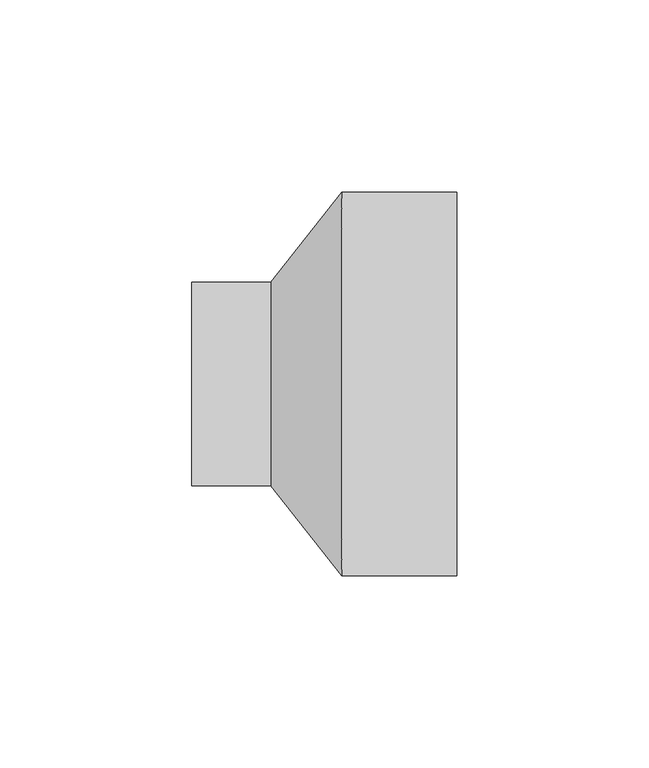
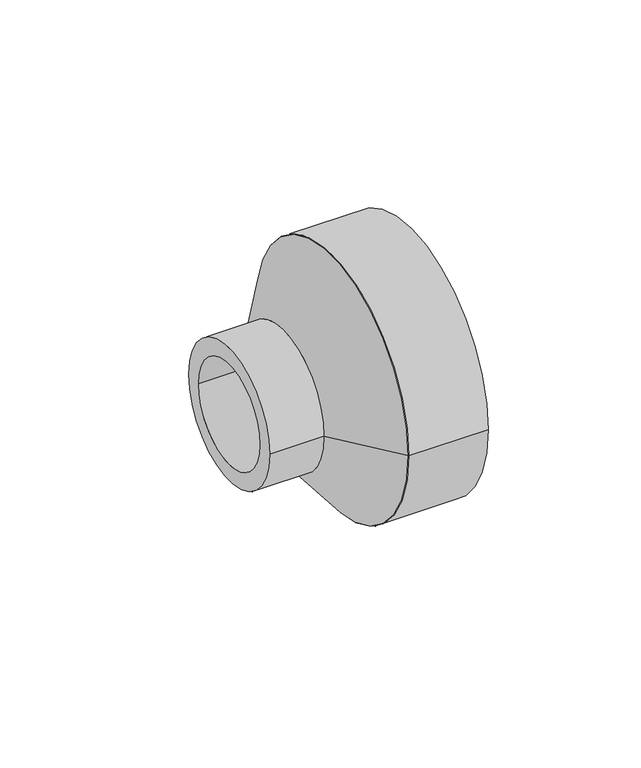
"""IFC4 building model written with IfcOpenShell, lengths in millimetres: pipe fitting geometry, 23_Муфта переходная ВВ : Белый цвет."""

from ifc_helpers import new_model, si_unit, point, frame, origin, origin_2d, place, context, project, spatial, polyline, circle_curve, trimmed, segment, composite_curve, outline, extrude, source, transform, mapped, element, save
from ifc_brep_helpers import plane_surface, revolved_surface, advanced_brep


def pipe_fitting_dfd67f19(model_context):
    return source(origin(), model_context, "Body", "SolidModel", [
        extrude(outline(composite_curve([segment(trimmed(circle_curve(origin_2d(), 50.0), [point((-50.0, 0.0))], [point((50.0, 0.0))], False, "CARTESIAN"), True, "CONTINUOUS"), segment(trimmed(circle_curve(origin_2d(), 50.0), [point((50.0, 0.0))], [point((-50.0, 0.0))], False, "CARTESIAN"), True, "CONTINUOUS")], self_intersect=False), holes=[composite_curve([segment(trimmed(circle_curve(origin_2d(), 37.5), [point((-37.5, 0.0))], [point((37.5, 0.0))], True, "CARTESIAN"), True, "CONTINUOUS"), segment(trimmed(circle_curve(origin_2d(), 37.5), [point((37.5, 0.0))], [point((-37.5, 0.0))], True, "CARTESIAN"), True, "CONTINUOUS")], self_intersect=False)]), frame((4.5, 0.0, 0.0), z_axis=(1.0, 0.0, 0.0), x_axis=(0.0, 1.0, 0.0)), (0.0, 0.0, 1.0), 30.0),
        extrude(outline(composite_curve([segment(trimmed(circle_curve(origin_2d(), 26.5), [point((-26.5, 0.0))], [point((26.5, 0.0))], False, "CARTESIAN"), True, "CONTINUOUS"), segment(trimmed(circle_curve(origin_2d(), 26.5), [point((26.5, 0.0))], [point((-26.5, 0.0))], False, "CARTESIAN"), True, "CONTINUOUS")], self_intersect=False), holes=[composite_curve([segment(trimmed(circle_curve(origin_2d(), 20.0), [point((-20.0, 0.0))], [point((20.0, 0.0))], True, "CARTESIAN"), True, "CONTINUOUS"), segment(trimmed(circle_curve(origin_2d(), 20.0), [point((20.0, 0.0))], [point((-20.0, 0.0))], True, "CARTESIAN"), True, "CONTINUOUS")], self_intersect=False)]), frame((-34.5, 0.0, 0.0), z_axis=(1.0, 0.0, 0.0), x_axis=(0.0, 1.0, 0.0)), (0.0, 0.0, 1.0), 20.5),
        advanced_brep(
        [(4.5, -50.0, 0.0), (4.5, 50.0, 0.0), (4.5, 37.5, 0.0), (4.5, -37.5, 0.0), (-14.0, -26.5, 0.0), (-14.0, 26.5, 0.0), (-14.0, -20.0, 0.0), (-14.0, 20.0, 0.0)],
        [
            (0, 1, circle_curve(frame((4.5, 0.0, 0.0), z_axis=(1.0, 0.0, 0.0), x_axis=(0.0, -1.0, 0.0)), 50.0)),
            (1, 0, circle_curve(frame((4.5, 0.0, 0.0), z_axis=(1.0, 0.0, 0.0), x_axis=(0.0, 1.0, 0.0)), 50.0)),
            (2, 3, circle_curve(frame((4.5, 0.0, 0.0), z_axis=(-1.0, 0.0, 0.0), x_axis=(0.0, -1.0, 0.0)), 37.5)),
            (3, 2, circle_curve(frame((4.5, 0.0, 0.0), z_axis=(-1.0, 0.0, 0.0), x_axis=(0.0, 1.0, 0.0)), 37.5)),
            (4, 5, circle_curve(frame((-14.0, 0.0, 0.0), z_axis=(-1.0, 0.0, 0.0), x_axis=(0.0, 1.0, 0.0)), 26.5)),
            (5, 4, circle_curve(frame((-14.0, 0.0, 0.0), z_axis=(-1.0, 0.0, 0.0), x_axis=(0.0, -1.0, 0.0)), 26.5)),
            (6, 7, circle_curve(frame((-14.0, 0.0, 0.0), z_axis=(1.0, 0.0, 0.0), x_axis=(0.0, -1.0, 0.0)), 20.0)),
            (7, 6, circle_curve(frame((-14.0, 0.0, 0.0), z_axis=(1.0, 0.0, 0.0), x_axis=(0.0, 1.0, 0.0)), 20.0)),
            (0, 4),
            (5, 1),
            (6, 3),
            (2, 7),
        ],
        [
            plane_surface(frame((4.5, 0.0, 0.0), z_axis=(1.0, 0.0, 0.0), x_axis=(0.0, 0.0, -1.0))),
            plane_surface(frame((-14.0, 0.0, 0.0), z_axis=(-1.0, 0.0, 0.0), x_axis=(0.0, 0.0, -1.0))),
            revolved_surface(polyline([(-14.0, 26.49999998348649, 0.0), (4.5, 50.0, 0.0)]), (-34.8617021, 0.0, 0.0), (1.0, 0.0, 0.0)),
            revolved_surface(polyline([(-14.0, -26.49999998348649, 0.0), (4.5, -50.0, 0.0)]), (-34.8617021, 0.0, 0.0), (1.0, 0.0, 0.0)),
            revolved_surface(polyline([(4.5, -37.5, 0.0), (-13.999999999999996, -19.999999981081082, 0.0)]), (-35.1428571, 0.0, 0.0), (1.0, 0.0, 0.0)),
        ],
        [
            (0, [[1, 2], [3, 4]]),
            (1, [[5, 6], [7, 8]]),
            (2, [[-1, 9, -6, 10]]),
            (3, [[-2, -10, -5, -9]]),
            (4, [[11, -3, 12, -7]]),
            (4, [[-11, -8, -12, -4]]),
        ],
    ),
    ])


if __name__ == "__main__":
    model = new_model("IFC4")
    model_context = context("Model", 3, world=origin())
    ifc_project = project(units=[si_unit("LENGTHUNIT", "METRE", prefix="MILLI")], contexts=[model_context])
    site = spatial("IfcSite", under=ifc_project)
    building = spatial("IfcBuilding", under=site)
    placement = place(None, origin())
    pipe_fitting_shape = pipe_fitting_dfd67f19(model_context)
    element("IfcPipeFitting", 1, ObjectType="23_Муфта переходная ВВ : Белый цвет", at=placement, inside=building, context=model_context, shape_type="MappedRepresentation", body=[
        mapped(pipe_fitting_shape, transform((0.0, 0.0, 0.0), x_axis=(1.0, 0.0, 0.0), y_axis=(0.0, 1.0, 0.0), z_axis=(0.0, 0.0, 1.0))),
    ])
    save(model, "model.ifc")
